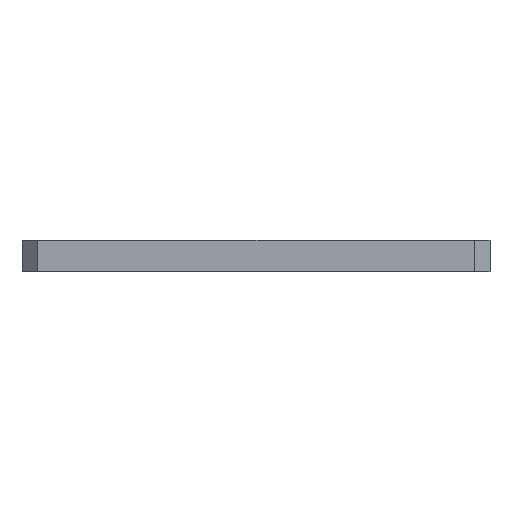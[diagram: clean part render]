
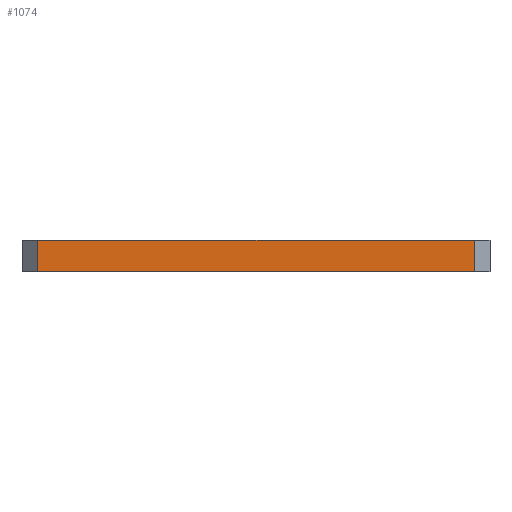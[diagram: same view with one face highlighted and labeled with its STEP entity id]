
A CAD part, front view. The second image highlights one B-rep face of the part: STEP entity #1074.
In plain terms, the highlighted planar face has unit normal (0, -1, 0).
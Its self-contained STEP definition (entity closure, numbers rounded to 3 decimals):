
#1061=AXIS2_PLACEMENT_3D('Plane Axis2P3D',#1058,#1059,#1060) ;
#141=CARTESIAN_POINT('Vertex',(145.5,-53.,-10.)) ;
#144=CARTESIAN_POINT('Line Origine',(75.5,-53.,-10.)) ;
#148=CARTESIAN_POINT('Vertex',(5.5,-53.,-10.)) ;
#381=CARTESIAN_POINT('Vertex',(5.5,-53.,0.)) ;
#384=CARTESIAN_POINT('Line Origine',(75.5,-53.,0.)) ;
#388=CARTESIAN_POINT('Vertex',(145.5,-53.,0.)) ;
#1046=CARTESIAN_POINT('Line Origine',(145.5,-53.,-5.)) ;
#1058=CARTESIAN_POINT('Axis2P3D Location',(0.5,-53.,0.)) ;
#1063=CARTESIAN_POINT('Line Origine',(5.5,-53.,-5.)) ;
#145=DIRECTION('Vector Direction',(1.,0.,0.)) ;
#385=DIRECTION('Vector Direction',(1.,0.,0.)) ;
#1047=DIRECTION('Vector Direction',(0.,0.,-1.)) ;
#1059=DIRECTION('Axis2P3D Direction',(-0.,1.,0.)) ;
#1060=DIRECTION('Axis2P3D XDirection',(1.,0.,0.)) ;
#1064=DIRECTION('Vector Direction',(0.,0.,1.)) ;
#146=VECTOR('Line Direction',#145,1.) ;
#386=VECTOR('Line Direction',#385,1.) ;
#1048=VECTOR('Line Direction',#1047,1.) ;
#1065=VECTOR('Line Direction',#1064,1.) ;
#1069=ORIENTED_EDGE('',*,*,#1067,.T.) ;
#1070=ORIENTED_EDGE('',*,*,#150,.T.) ;
#1071=ORIENTED_EDGE('',*,*,#1050,.F.) ;
#1072=ORIENTED_EDGE('',*,*,#390,.F.) ;
#1074=ADVANCED_FACE('PartBody',(#1073),#1062,.F.) ;
#150=EDGE_CURVE('',#149,#142,#147,.T.) ;
#390=EDGE_CURVE('',#382,#389,#387,.T.) ;
#1050=EDGE_CURVE('',#389,#142,#1049,.T.) ;
#1067=EDGE_CURVE('',#382,#149,#1066,.F.) ;
#1068=EDGE_LOOP('',(#1069,#1070,#1071,#1072)) ;
#1073=FACE_OUTER_BOUND('',#1068,.T.) ;
#147=LINE('Line',#144,#146) ;
#387=LINE('Line',#384,#386) ;
#1049=LINE('Line',#1046,#1048) ;
#1066=LINE('Line',#1063,#1065) ;
#1062=PLANE('',#1061) ;
#142=VERTEX_POINT('',#141) ;
#149=VERTEX_POINT('',#148) ;
#382=VERTEX_POINT('',#381) ;
#389=VERTEX_POINT('',#388) ;
